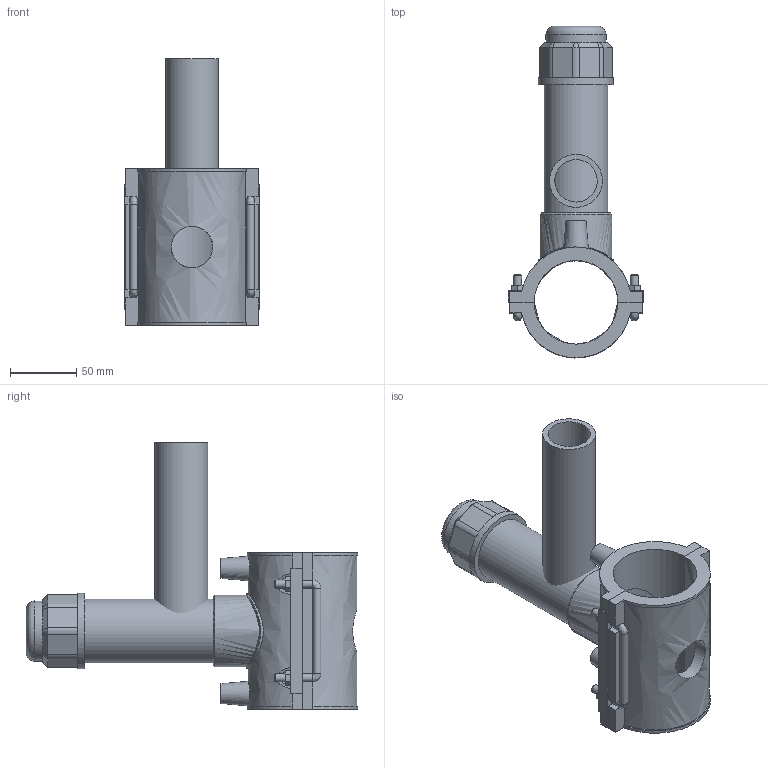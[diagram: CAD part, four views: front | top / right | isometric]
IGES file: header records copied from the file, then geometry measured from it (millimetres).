
Global section: file name: 4963P4063040; native system: Autodesk Inventor 2019; preprocessor: unknown; author: KIM; date: 20220317.112538; units: millimetre
Bounding box: 102 x 250.26 x 201 mm (x, y, z)
Volume: 557157.6 mm3; surface area: 164610.9 mm2
Topology: 3 solids, 3 shells, 186 faces, 485 edges, 312 vertices
Faces by surface type: bspline 186
